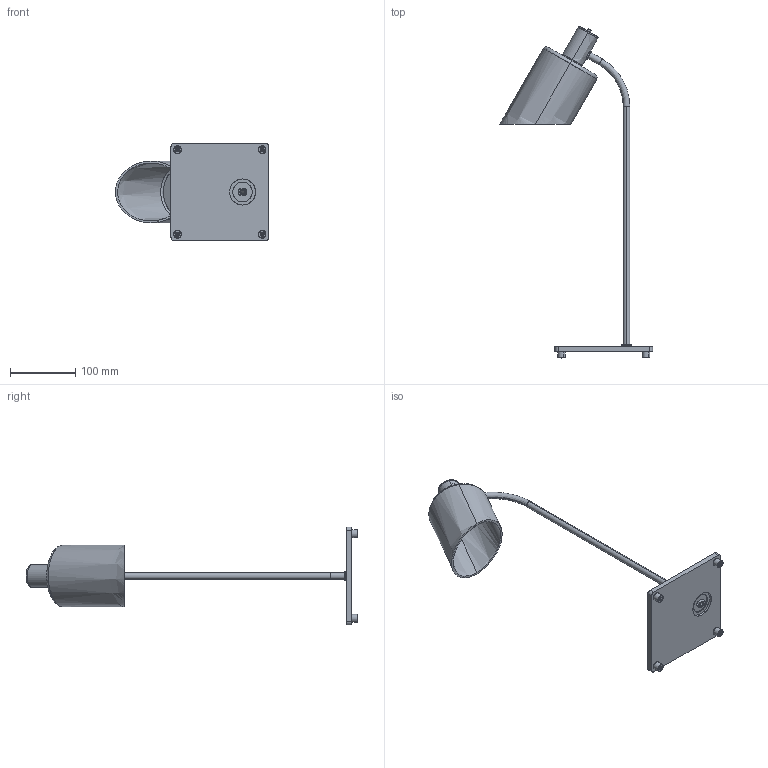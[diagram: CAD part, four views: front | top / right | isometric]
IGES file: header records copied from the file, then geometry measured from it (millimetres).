
Start section: SolidWorks IGES file using analytic representation for surfaces
Global section: file name: N:\- Ingeneria\SILHOUETTE\3D_UPLOAD -ZIP\TABLE\3D_LAMPE_DE_BUREAU\Lampe de bureau_As_Per sito.IGS; native system: SolidWorks 2016; preprocessor: SolidWorks 2016; author: BenedettoLiVolsi; date: 221021.105858; units: millimetre
Bounding box: 235.41 x 510.25 x 150 mm (x, y, z)
Surface area: 177420.8 mm2 (no closed solid volume)
Topology: 0 solids, 0 shells, 306 faces, 5232 edges, 5224 vertices
Faces by surface type: revolution 179, bspline 127
